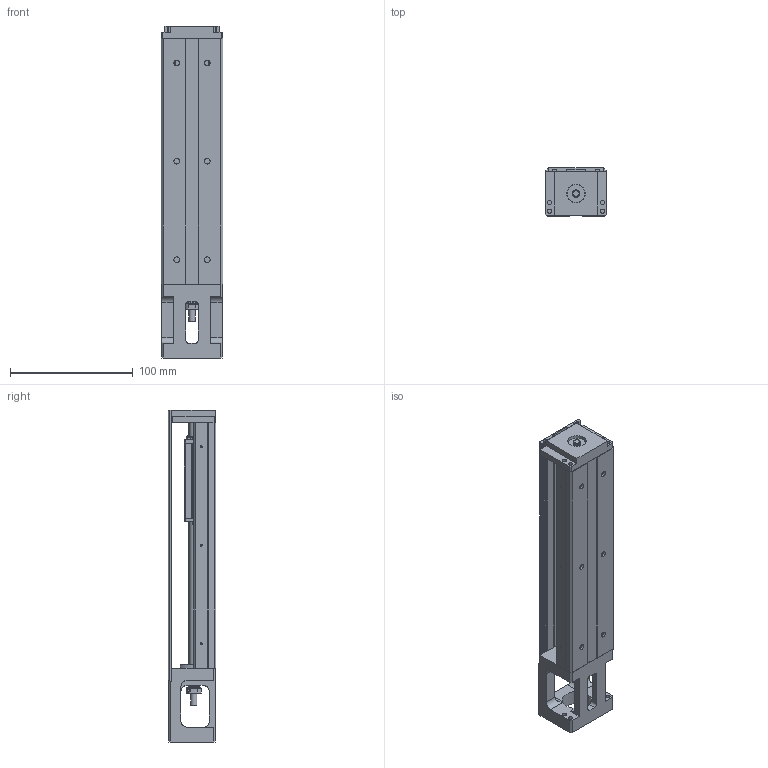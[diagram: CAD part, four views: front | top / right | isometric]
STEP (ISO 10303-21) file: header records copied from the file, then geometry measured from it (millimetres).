
FILE_DESCRIPTION(/* description */ (''),/* implementation_level */ '2;1');
FILE_NAME(/* name */ '26-200C.stp',/* time_stamp */ '2016-12-16T14:55:25+08:00',/* author */ (''),/* organization */ (''),/* preprocessor_version */ 'ST-DEVELOPER v11',/* originating_system */ 'SIEMENS UGS NX 6.0',/* authorisation */ '');
FILE_SCHEMA (('AUTOMOTIVE_DESIGN { 1 0 10303 214 1 1 1 1 }'));
Length unit declared in the file: millimetre
Products named in the file (1): model4
Bounding box: 50 x 39 x 270 mm (x, y, z)
Volume: 227787.2 mm3; surface area: 96969.9 mm2
Topology: 6 solids, 11 shells, 687 faces, 1802 edges, 1161 vertices
Faces by surface type: plane 351, cylinder 242, cone 63, bspline 20, torus 6, extrusion 4, sphere 1
Full cylindrical faces by diameter (mm): 1.6 x6, 2.42 x2, 2.5 x5, 2.8 x6, 3.2 x4, 3.3 x6, 3.5 x6, 4 x4, 4.5 x6, 5 x7, 5.7 x1, 6 x9, 8 x31, 9 x2, 10 x1, 15 x2, 16.9 x1
Entity records: 30362 total; most frequent: CARTESIAN_POINT 11428, DIRECTION 3175, ORIENTED_EDGE 3128, EDGE_CURVE 1564, AXIS2_PLACEMENT_3D 1124, VERTEX_POINT 1085, VECTOR 927, LINE 923
